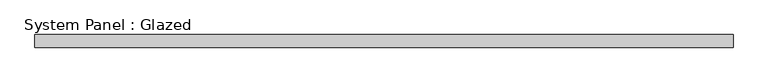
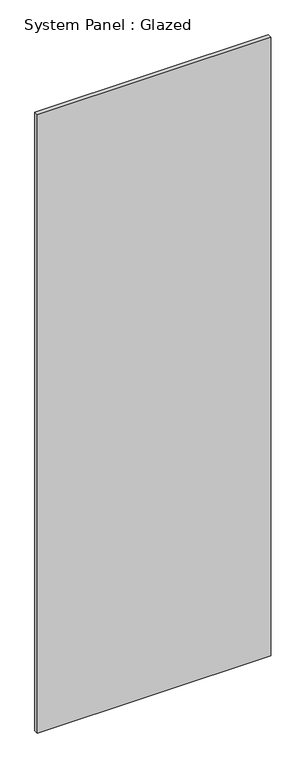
"""IFC4 building model written with IfcOpenShell, lengths in millimetres: plate geometry, System Panel : Glazed."""

from ifc_helpers import new_model, si_unit, origin, origin_with_axes, place, context, project, spatial, polyline, outline, extrude, source, transform, mapped, element, save


def system_panel_glazed_ac2502f9(model_context):
    return source(origin(), model_context, "Body", "SweptSolid", [
        extrude(outline(polyline([(669.4400388, -49.5), (-669.4400388, -49.5), (-669.4400388, -24.5), (669.4400388, -24.5), (669.4400388, -49.5)])), origin_with_axes(), (0.0, 0.0, 1.0), 3750.0),
    ])


if __name__ == "__main__":
    model = new_model("IFC4")
    model_context = context("Model", 3, world=origin())
    ifc_project = project(units=[si_unit("LENGTHUNIT", "METRE", prefix="MILLI")], contexts=[model_context])
    site = spatial("IfcSite", under=ifc_project)
    building = spatial("IfcBuilding", under=site)
    placement = place(None, origin())
    system_panel_glazed_shape = system_panel_glazed_ac2502f9(model_context)
    element("IfcPlate", 1, ObjectType="System Panel : Glazed", at=placement, inside=building, context=model_context, shape_type="MappedRepresentation", body=[
        mapped(system_panel_glazed_shape, transform((0.0, 0.0, 0.0), x_axis=(1.0, 0.0, 0.0), y_axis=(0.0, 1.0, 0.0), z_axis=(0.0, 0.0, 1.0))),
    ])
    save(model, "model.ifc")
